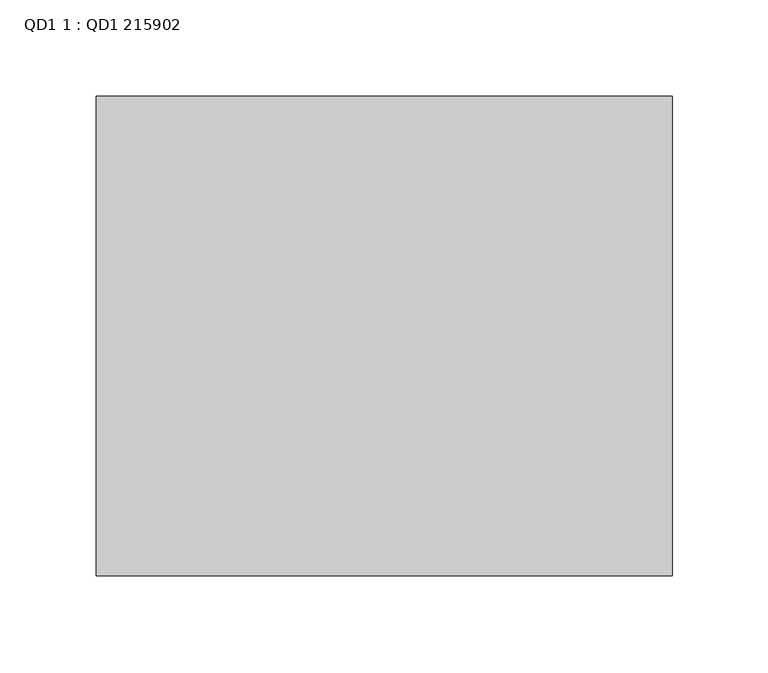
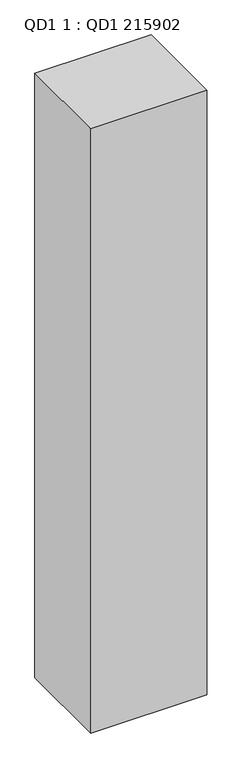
"""IFC4 building model written with IfcOpenShell, lengths in millimetres: proxy geometry, QD1 1 : QD1 215902."""

from ifc_helpers import new_model, si_unit, frame, origin, place, context, project, spatial, polyline, outline, extrude, source, transform, mapped, element, save


def qd1_1_qd1_215902_d19d638f(model_context):
    return source(origin(), model_context, "Body", "SweptSolid", [
        extrude(outline(polyline([(24622.7746511, 4486.4121745), (24622.7746511, 4736.4121745), (24922.7746511, 4736.4121745), (24922.7746511, 4486.4121745), (24622.7746511, 4486.4121745)])), frame((0.0, 0.0, 2880.0), z_axis=(0.0, 0.0, 1.0), x_axis=(1.0, 0.0, 0.0)), (0.0, 0.0, 1.0), 1650.0),
    ])


if __name__ == "__main__":
    model = new_model("IFC4")
    model_context = context("Model", 3, world=origin())
    ifc_project = project(units=[si_unit("LENGTHUNIT", "METRE", prefix="MILLI")], contexts=[model_context])
    site = spatial("IfcSite", under=ifc_project)
    building = spatial("IfcBuilding", under=site)
    placement = place(None, origin())
    qd1_1_qd1_215902_shape = qd1_1_qd1_215902_d19d638f(model_context)
    element("IfcBuildingElementProxy", 1, Name="QD1 1 : QD1 215902", ObjectType="QD1 1 : QD1 215902", at=placement, inside=building, context=model_context, shape_type="MappedRepresentation", body=[
        mapped(qd1_1_qd1_215902_shape, transform((0.0, 0.0, 0.0), x_axis=(1.0, 0.0, 0.0), y_axis=(0.0, 1.0, 0.0), z_axis=(0.0, 0.0, 1.0))),
    ])
    save(model, "model.ifc")
